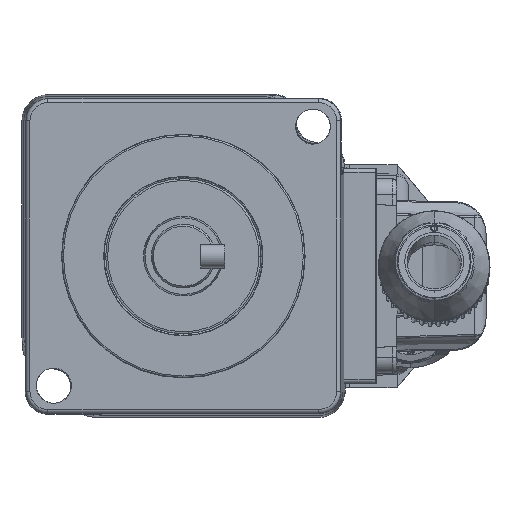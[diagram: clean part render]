
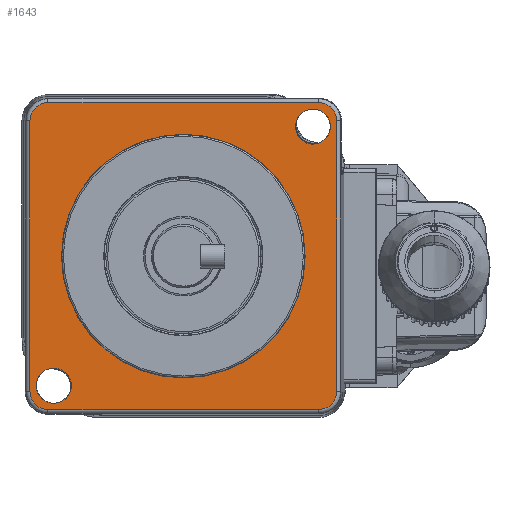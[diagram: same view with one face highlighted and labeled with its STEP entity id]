
A CAD part, front view. The second image highlights one B-rep face of the part: STEP entity #1643.
In plain terms, the highlighted planar face has unit normal (0, -1, 0).
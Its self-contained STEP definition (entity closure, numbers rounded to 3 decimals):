
#342=CARTESIAN_POINT('',(-17.,0.,17.));
#343=DIRECTION('',(0.,1.,0.));
#344=DIRECTION('',(-1.,0.,0.));
#345=AXIS2_PLACEMENT_3D('',#342,#343,#344);
#347=CARTESIAN_POINT('',(17.,0.,17.));
#348=DIRECTION('',(0.,1.,0.));
#349=DIRECTION('',(0.,0.,1.));
#350=AXIS2_PLACEMENT_3D('',#347,#348,#349);
#352=CARTESIAN_POINT('',(17.,0.,-17.));
#353=DIRECTION('',(0.,1.,0.));
#354=DIRECTION('',(1.,0.,0.));
#355=AXIS2_PLACEMENT_3D('',#352,#353,#354);
#357=CARTESIAN_POINT('',(-17.,0.,-17.));
#358=DIRECTION('',(0.,1.,0.));
#359=DIRECTION('',(0.,0.,-1.));
#360=AXIS2_PLACEMENT_3D('',#357,#358,#359);
#362=CARTESIAN_POINT('',(0.,0.,0.));
#363=DIRECTION('',(0.,-1.,0.));
#364=DIRECTION('',(1.,0.,0.));
#365=AXIS2_PLACEMENT_3D('',#362,#363,#364);
#367=CARTESIAN_POINT('',(0.,0.,0.));
#368=DIRECTION('',(0.,-1.,0.));
#369=DIRECTION('',(-1.,0.,0.));
#370=AXIS2_PLACEMENT_3D('',#367,#368,#369);
#372=CARTESIAN_POINT('',(-16.263,0.,
-16.263));
#373=DIRECTION('',(0.,-1.,0.));
#374=DIRECTION('',(1.,0.,0.));
#375=AXIS2_PLACEMENT_3D('',#372,#373,#374);
#377=CARTESIAN_POINT('',(-16.263,0.,
-16.263));
#378=DIRECTION('',(0.,-1.,0.));
#379=DIRECTION('',(-1.,0.,0.));
#380=AXIS2_PLACEMENT_3D('',#377,#378,#379);
#382=CARTESIAN_POINT('',(16.263,0.,16.263));
#383=DIRECTION('',(0.,-1.,0.));
#384=DIRECTION('',(1.,0.,0.));
#385=AXIS2_PLACEMENT_3D('',#382,#383,#384);
#387=CARTESIAN_POINT('',(16.263,0.,16.263));
#388=DIRECTION('',(0.,-1.,0.));
#389=DIRECTION('',(-1.,0.,0.));
#390=AXIS2_PLACEMENT_3D('',#387,#388,#389);
#407=DIRECTION('',(0.,0.,-1.));
#408=VECTOR('',#407,34.);
#409=CARTESIAN_POINT('',(-19.256,0.,17.));
#410=LINE('',#409,#408);
#430=DIRECTION('',(1.,0.,0.));
#431=VECTOR('',#430,34.);
#432=CARTESIAN_POINT('',(-17.,0.,-19.256));
#433=LINE('',#432,#431);
#453=DIRECTION('',(0.,0.,1.));
#454=VECTOR('',#453,34.);
#455=CARTESIAN_POINT('',(19.256,0.,-17.));
#456=LINE('',#455,#454);
#476=DIRECTION('',(-1.,0.,0.));
#477=VECTOR('',#476,34.);
#478=CARTESIAN_POINT('',(17.,0.,19.256));
#479=LINE('',#478,#477);
#1338=CARTESIAN_POINT('',(-19.256,0.,17.));
#1339=CARTESIAN_POINT('',(-17.,0.,19.256));
#1340=VERTEX_POINT('',#1338);
#1341=VERTEX_POINT('',#1339);
#1342=CARTESIAN_POINT('',(17.,0.,19.256));
#1343=VERTEX_POINT('',#1342);
#1344=CARTESIAN_POINT('',(19.256,0.,17.));
#1345=VERTEX_POINT('',#1344);
#1346=CARTESIAN_POINT('',(19.256,0.,-17.));
#1347=VERTEX_POINT('',#1346);
#1348=CARTESIAN_POINT('',(17.,0.,-19.256));
#1349=VERTEX_POINT('',#1348);
#1350=CARTESIAN_POINT('',(-17.,0.,-19.256));
#1351=VERTEX_POINT('',#1350);
#1352=CARTESIAN_POINT('',(-19.256,0.,-17.));
#1353=VERTEX_POINT('',#1352);
#1354=CARTESIAN_POINT('',(15.294,0.,0.));
#1355=CARTESIAN_POINT('',(-15.294,0.,0.));
#1356=VERTEX_POINT('',#1354);
#1357=VERTEX_POINT('',#1355);
#1358=CARTESIAN_POINT('',(-14.064,0.,
-16.263));
#1359=CARTESIAN_POINT('',(-18.463,0.,
-16.263));
#1360=VERTEX_POINT('',#1358);
#1361=VERTEX_POINT('',#1359);
#1362=CARTESIAN_POINT('',(18.463,0.,
16.263));
#1363=CARTESIAN_POINT('',(14.064,0.,
16.263));
#1364=VERTEX_POINT('',#1362);
#1365=VERTEX_POINT('',#1363);
#1602=CARTESIAN_POINT('',(0.,0.,0.));
#1603=DIRECTION('',(0.,1.,0.));
#1604=DIRECTION('',(1.,0.,0.));
#1605=AXIS2_PLACEMENT_3D('',#1602,#1603,#1604);
#1606=PLANE('',#1605);
#1608=ORIENTED_EDGE('',*,*,#1607,.T.);
#1610=ORIENTED_EDGE('',*,*,#1609,.F.);
#1612=ORIENTED_EDGE('',*,*,#1611,.T.);
#1614=ORIENTED_EDGE('',*,*,#1613,.F.);
#1616=ORIENTED_EDGE('',*,*,#1615,.T.);
#1618=ORIENTED_EDGE('',*,*,#1617,.F.);
#1620=ORIENTED_EDGE('',*,*,#1619,.T.);
#1622=ORIENTED_EDGE('',*,*,#1621,.F.);
#1623=EDGE_LOOP('',(#1608,#1610,#1612,#1614,#1616,#1618,#1620,#1622));
#1624=FACE_OUTER_BOUND('',#1623,.F.);
#1626=ORIENTED_EDGE('',*,*,#1625,.T.);
#1628=ORIENTED_EDGE('',*,*,#1627,.T.);
#1629=EDGE_LOOP('',(#1626,#1628));
#1630=FACE_BOUND('',#1629,.F.);
#1632=ORIENTED_EDGE('',*,*,#1631,.T.);
#1634=ORIENTED_EDGE('',*,*,#1633,.T.);
#1635=EDGE_LOOP('',(#1632,#1634));
#1636=FACE_BOUND('',#1635,.F.);
#1638=ORIENTED_EDGE('',*,*,#1637,.T.);
#1640=ORIENTED_EDGE('',*,*,#1639,.T.);
#1641=EDGE_LOOP('',(#1638,#1640));
#1642=FACE_BOUND('',#1641,.F.);
#1643=ADVANCED_FACE('',(#1624,#1630,#1636,#1642),#1606,.F.);
#346=CIRCLE('',#345,2.256);
#351=CIRCLE('',#350,2.256);
#356=CIRCLE('',#355,2.256);
#361=CIRCLE('',#360,2.256);
#366=CIRCLE('',#365,15.294);
#371=CIRCLE('',#370,15.294);
#376=CIRCLE('',#375,2.199);
#381=CIRCLE('',#380,2.199);
#386=CIRCLE('',#385,2.199);
#391=CIRCLE('',#390,2.199);
#1607=EDGE_CURVE('',#1340,#1341,#346,.T.);
#1609=EDGE_CURVE('',#1343,#1341,#479,.T.);
#1611=EDGE_CURVE('',#1343,#1345,#351,.T.);
#1613=EDGE_CURVE('',#1347,#1345,#456,.T.);
#1615=EDGE_CURVE('',#1347,#1349,#356,.T.);
#1617=EDGE_CURVE('',#1351,#1349,#433,.T.);
#1619=EDGE_CURVE('',#1351,#1353,#361,.T.);
#1621=EDGE_CURVE('',#1340,#1353,#410,.T.);
#1625=EDGE_CURVE('',#1356,#1357,#366,.T.);
#1627=EDGE_CURVE('',#1357,#1356,#371,.T.);
#1631=EDGE_CURVE('',#1360,#1361,#376,.T.);
#1633=EDGE_CURVE('',#1361,#1360,#381,.T.);
#1637=EDGE_CURVE('',#1364,#1365,#386,.T.);
#1639=EDGE_CURVE('',#1365,#1364,#391,.T.);
